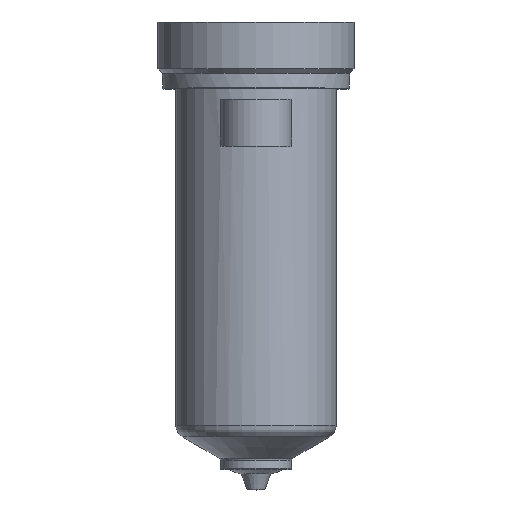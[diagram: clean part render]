
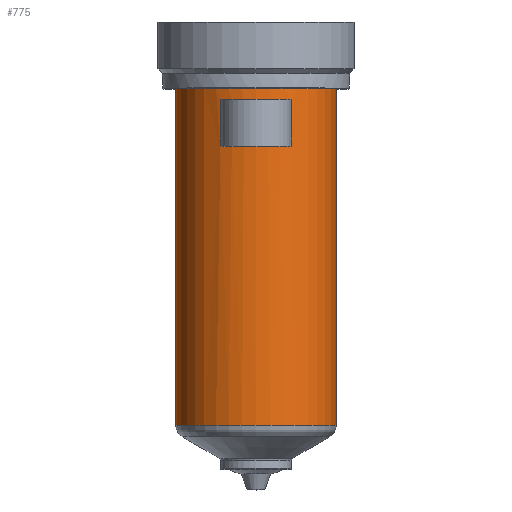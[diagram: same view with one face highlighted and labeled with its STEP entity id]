
A CAD part, top view. The second image highlights one B-rep face of the part: STEP entity #775.
In plain terms, the highlighted cylindrical face has radius 18 mm (diameter 36 mm), a partial arc.
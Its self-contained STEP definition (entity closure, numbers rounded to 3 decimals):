
#187=DIRECTION('',(0.,-1.,0.));
#188=VECTOR('',#187,75.506);
#189=CARTESIAN_POINT('',(18.,0.,0.));
#190=LINE('',#189,#188);
#191=CARTESIAN_POINT('',(0.,-75.506,0.));
#192=DIRECTION('',(0.,1.,0.));
#193=DIRECTION('',(-1.,0.,0.));
#194=AXIS2_PLACEMENT_3D('',#191,#192,#193);
#196=DIRECTION('',(0.,1.,0.));
#197=VECTOR('',#196,75.506);
#198=CARTESIAN_POINT('',(-18.,-75.506,0.));
#199=LINE('',#198,#197);
#200=CARTESIAN_POINT('',(0.,0.,0.));
#201=DIRECTION('',(0.,1.,0.));
#202=DIRECTION('',(-1.,0.,0.));
#203=AXIS2_PLACEMENT_3D('',#200,#201,#202);
#349=DIRECTION('',(0.,-1.,0.));
#350=VECTOR('',#349,10.5);
#351=CARTESIAN_POINT('',(-8.,-2.5,16.125));
#352=LINE('',#351,#350);
#353=CARTESIAN_POINT('',(0.,-13.,0.));
#354=DIRECTION('',(0.,1.,0.));
#355=DIRECTION('',(-0.444,0.,0.896));
#356=AXIS2_PLACEMENT_3D('',#353,#354,#355);
#379=CARTESIAN_POINT('',(0.,-2.5,0.));
#380=DIRECTION('',(0.,-1.,0.));
#381=DIRECTION('',(0.444,0.,0.896));
#382=AXIS2_PLACEMENT_3D('',#379,#380,#381);
#397=DIRECTION('',(0.,-1.,0.));
#398=VECTOR('',#397,10.5);
#399=CARTESIAN_POINT('',(8.,-2.5,16.125));
#400=LINE('',#399,#398);
#458=CARTESIAN_POINT('',(-18.,0.,0.));
#459=CARTESIAN_POINT('',(18.,0.,0.));
#460=VERTEX_POINT('',#458);
#461=VERTEX_POINT('',#459);
#470=CARTESIAN_POINT('',(-8.,-2.5,16.125));
#471=VERTEX_POINT('',#470);
#472=CARTESIAN_POINT('',(8.,-2.5,16.125));
#473=VERTEX_POINT('',#472);
#506=CARTESIAN_POINT('',(18.,-75.506,0.));
#507=VERTEX_POINT('',#506);
#516=CARTESIAN_POINT('',(-18.,-75.506,0.));
#517=VERTEX_POINT('',#516);
#534=CARTESIAN_POINT('',(-8.,-13.,16.125));
#535=CARTESIAN_POINT('',(8.,-13.,16.125));
#536=VERTEX_POINT('',#534);
#537=VERTEX_POINT('',#535);
#753=CARTESIAN_POINT('',(0.,16.4,0.));
#754=DIRECTION('',(0.,-1.,0.));
#755=DIRECTION('',(-1.,0.,0.));
#756=AXIS2_PLACEMENT_3D('',#753,#754,#755);
#757=CYLINDRICAL_SURFACE('',#756,18.);
#758=ORIENTED_EDGE('',*,*,#747,.T.);
#760=ORIENTED_EDGE('',*,*,#759,.F.);
#761=ORIENTED_EDGE('',*,*,#743,.T.);
#762=ORIENTED_EDGE('',*,*,#733,.T.);
#763=EDGE_LOOP('',(#758,#760,#761,#762));
#764=FACE_OUTER_BOUND('',#763,.F.);
#766=ORIENTED_EDGE('',*,*,#765,.T.);
#768=ORIENTED_EDGE('',*,*,#767,.T.);
#770=ORIENTED_EDGE('',*,*,#769,.F.);
#772=ORIENTED_EDGE('',*,*,#771,.T.);
#773=EDGE_LOOP('',(#766,#768,#770,#772));
#774=FACE_BOUND('',#773,.F.);
#775=ADVANCED_FACE('',(#764,#774),#757,.T.);
#195=CIRCLE('',#194,18.);
#204=CIRCLE('',#203,18.);
#357=CIRCLE('',#356,18.);
#383=CIRCLE('',#382,18.);
#733=EDGE_CURVE('',#460,#461,#204,.T.);
#743=EDGE_CURVE('',#517,#460,#199,.T.);
#747=EDGE_CURVE('',#461,#507,#190,.T.);
#759=EDGE_CURVE('',#517,#507,#195,.T.);
#765=EDGE_CURVE('',#471,#536,#352,.T.);
#767=EDGE_CURVE('',#536,#537,#357,.T.);
#769=EDGE_CURVE('',#473,#537,#400,.T.);
#771=EDGE_CURVE('',#473,#471,#383,.T.);
